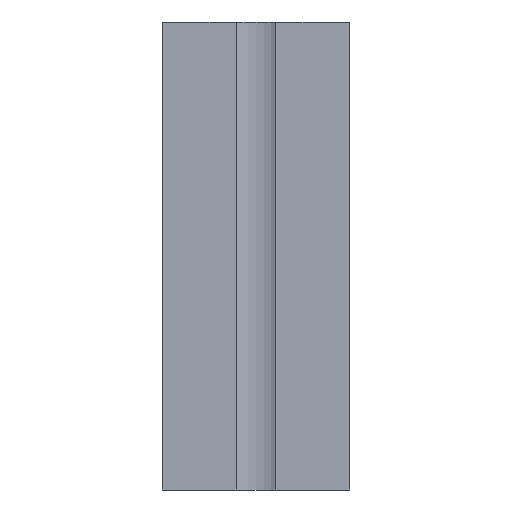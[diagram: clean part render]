
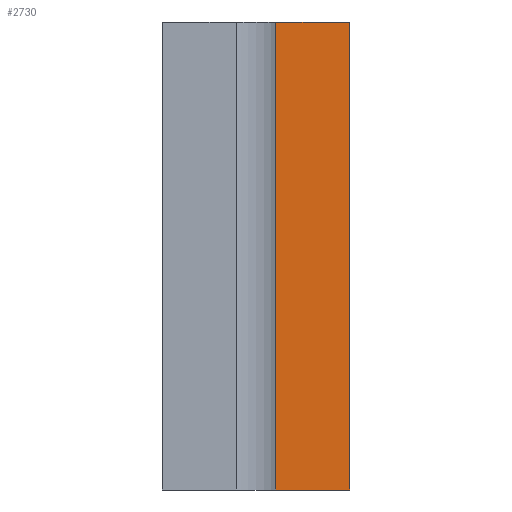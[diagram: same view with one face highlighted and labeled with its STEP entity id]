
A CAD part, left-side view. The second image highlights one B-rep face of the part: STEP entity #2730.
In plain terms, the highlighted planar face has unit normal (-1, 0, 0).
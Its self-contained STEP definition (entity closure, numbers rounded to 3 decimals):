
#328=ORIENTED_EDGE('',*,*,#1074,.F.);
#329=ORIENTED_EDGE('',*,*,#1075,.T.);
#330=ORIENTED_EDGE('',*,*,#1076,.F.);
#331=ORIENTED_EDGE('',*,*,#1071,.T.);
#1071=EDGE_CURVE('',#1422,#1423,#1721,.T.);
#1074=EDGE_CURVE('',#1424,#1423,#1724,.T.);
#1075=EDGE_CURVE('',#1424,#1425,#1725,.T.);
#1076=EDGE_CURVE('',#1422,#1425,#1726,.T.);
#1422=VERTEX_POINT('',#4128);
#1423=VERTEX_POINT('',#4129);
#1424=VERTEX_POINT('',#4134);
#1425=VERTEX_POINT('',#4136);
#1721=LINE('',#4127,#2093);
#1724=LINE('',#4133,#2096);
#1725=LINE('',#4135,#2097);
#1726=LINE('',#4137,#2098);
#2093=VECTOR('',#3338,1000.);
#2096=VECTOR('',#3343,1000.);
#2097=VECTOR('',#3344,1000.);
#2098=VECTOR('',#3345,1000.);
#2320=EDGE_LOOP('',(#328,#329,#330,#331));
#2464=FACE_BOUND('',#2320,.T.);
#2603=PLANE('',#2887);
#2730=ADVANCED_FACE('',(#2464),#2603,.T.);
#2887=AXIS2_PLACEMENT_3D('',#4132,#3341,#3342);
#3338=DIRECTION('',(0.,0.,-1.));
#3341=DIRECTION('',(-1.,0.,0.));
#3342=DIRECTION('',(0.,-1.,0.));
#3343=DIRECTION('',(0.,1.,0.));
#3344=DIRECTION('',(0.,0.,1.));
#3345=DIRECTION('',(0.,-1.,0.));
#4127=CARTESIAN_POINT('',(-20.,-4.2,0.));
#4128=CARTESIAN_POINT('',(-20.,-4.2,50.));
#4129=CARTESIAN_POINT('',(-20.,-4.2,-50.));
#4132=CARTESIAN_POINT('',(-20.,20.,0.));
#4133=CARTESIAN_POINT('',(-20.,0.001,-50.));
#4134=CARTESIAN_POINT('',(-20.,-20.,-50.));
#4135=CARTESIAN_POINT('',(-20.,-20.,0.));
#4136=CARTESIAN_POINT('',(-20.,-20.,50.));
#4137=CARTESIAN_POINT('',(-20.,0.001,50.));
